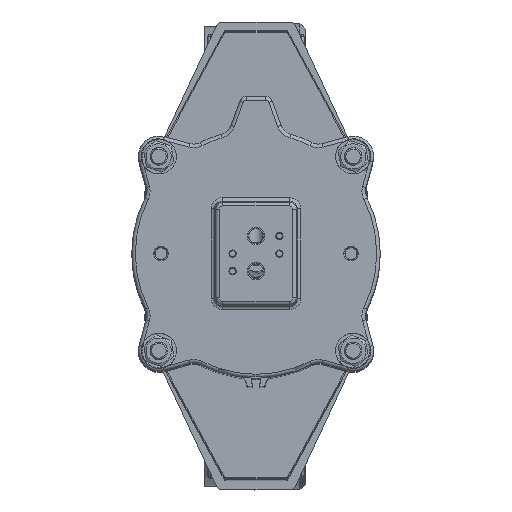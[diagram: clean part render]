
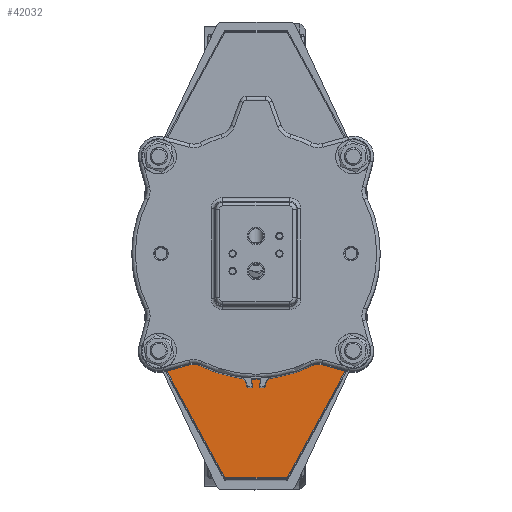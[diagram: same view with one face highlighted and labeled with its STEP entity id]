
A CAD part, top view. The second image highlights one B-rep face of the part: STEP entity #42032.
In plain terms, the highlighted planar face has unit normal (0, 0, 1).
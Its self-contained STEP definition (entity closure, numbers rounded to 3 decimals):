
#2493=PLANE('',#45590);
#4184=LINE('',#69090,#6790);
#4187=LINE('',#69095,#6793);
#4190=LINE('',#69101,#6796);
#4216=LINE('',#69161,#6822);
#4217=LINE('',#69163,#6823);
#4218=LINE('',#69165,#6824);
#4219=LINE('',#69167,#6825);
#4220=LINE('',#69168,#6826);
#6790=VECTOR('',#53756,10.);
#6793=VECTOR('',#53761,10.);
#6796=VECTOR('',#53766,10.);
#6822=VECTOR('',#53832,10.);
#6823=VECTOR('',#53833,10.);
#6824=VECTOR('',#53834,10.);
#6825=VECTOR('',#53835,10.);
#6826=VECTOR('',#53836,10.);
#9790=FACE_OUTER_BOUND('',#12503,.T.);
#12503=EDGE_LOOP('',(#32544,#32545,#32546,#32547,#32548,#32549,#32550,#32551));
#18935=VERTEX_POINT('',#69060);
#18945=VERTEX_POINT('',#69087);
#18946=VERTEX_POINT('',#69089);
#18949=VERTEX_POINT('',#69100);
#18963=VERTEX_POINT('',#69160);
#18964=VERTEX_POINT('',#69162);
#18965=VERTEX_POINT('',#69164);
#18966=VERTEX_POINT('',#69166);
#23812=EDGE_CURVE('',#18946,#18945,#4184,.T.);
#23815=EDGE_CURVE('',#18945,#18935,#4187,.T.);
#23818=EDGE_CURVE('',#18949,#18946,#4190,.T.);
#23850=EDGE_CURVE('',#18935,#18963,#4216,.T.);
#23851=EDGE_CURVE('',#18963,#18964,#4217,.T.);
#23852=EDGE_CURVE('',#18965,#18964,#4218,.T.);
#23853=EDGE_CURVE('',#18966,#18965,#4219,.T.);
#23854=EDGE_CURVE('',#18949,#18966,#4220,.T.);
#32544=ORIENTED_EDGE('',*,*,#23815,.T.);
#32545=ORIENTED_EDGE('',*,*,#23850,.T.);
#32546=ORIENTED_EDGE('',*,*,#23851,.T.);
#32547=ORIENTED_EDGE('',*,*,#23852,.F.);
#32548=ORIENTED_EDGE('',*,*,#23853,.F.);
#32549=ORIENTED_EDGE('',*,*,#23854,.F.);
#32550=ORIENTED_EDGE('',*,*,#23818,.T.);
#32551=ORIENTED_EDGE('',*,*,#23812,.T.);
#42032=ADVANCED_FACE('',(#9790),#2493,.T.);
#45590=AXIS2_PLACEMENT_3D('',#69159,#53830,#53831);
#53756=DIRECTION('',(0.477,-0.879,0.));
#53761=DIRECTION('',(1.,0.,0.));
#53766=DIRECTION('',(0.,-1.,0.));
#53830=DIRECTION('center_axis',(0.,0.,
1.));
#53831=DIRECTION('ref_axis',(1.,0.,0.));
#53832=DIRECTION('',(1.,0.,0.));
#53833=DIRECTION('',(1.,0.,0.));
#53834=DIRECTION('',(-0.477,-0.879,0.));
#53835=DIRECTION('',(0.,-1.,0.));
#53836=DIRECTION('',(1.,0.,0.));
#69060=CARTESIAN_POINT('',(-20.583,-152.299,639.7));
#69087=CARTESIAN_POINT('',(-21.381,-152.299,639.7));
#69089=CARTESIAN_POINT('',(-67.,-68.209,639.7));
#69090=CARTESIAN_POINT('',(-21.001,-152.999,639.7));
#69095=CARTESIAN_POINT('',(2.414,-152.299,639.7));
#69100=CARTESIAN_POINT('',(-67.,-59.999,639.7));
#69101=CARTESIAN_POINT('',(-67.,-68.209,639.7));
#69159=CARTESIAN_POINT('Origin',(25.412,-99.179,639.7));
#69160=CARTESIAN_POINT('',(20.583,-152.299,639.7));
#69161=CARTESIAN_POINT('',(2.414,-152.299,639.7));
#69162=CARTESIAN_POINT('',(21.381,-152.299,639.7));
#69163=CARTESIAN_POINT('',(22.998,-152.299,639.7));
#69164=CARTESIAN_POINT('',(67.,-68.209,639.7));
#69165=CARTESIAN_POINT('',(21.001,-152.999,639.7));
#69166=CARTESIAN_POINT('',(67.,-59.999,639.7));
#69167=CARTESIAN_POINT('',(67.,-68.209,639.7));
#69168=CARTESIAN_POINT('',(67.,-59.999,639.7));
